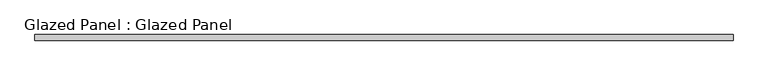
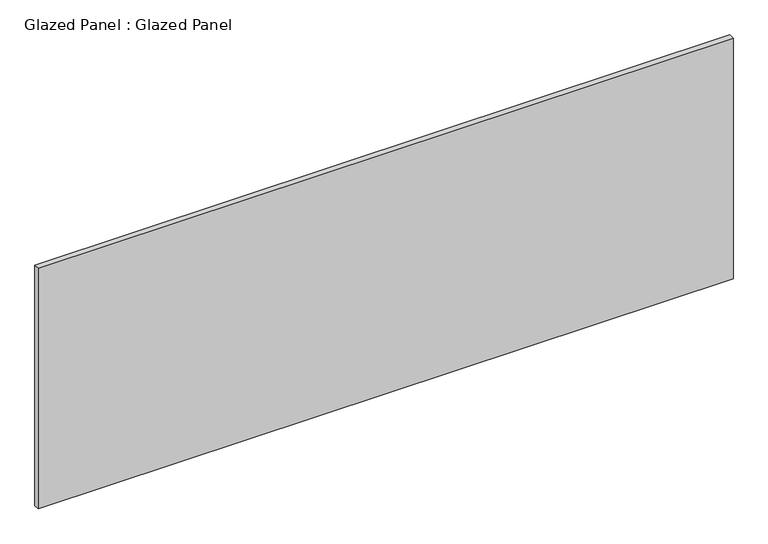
"""IFC4 building model written with IfcOpenShell, lengths in millimetres: plate geometry, Glazed Panel : Glazed Panel."""

from ifc_helpers import new_model, si_unit, origin, origin_with_axes, place, context, project, spatial, polyline, outline, extrude, source, transform, mapped, element, save


def glazed_panel_glazed_panel_a2050918(model_context):
    return source(origin(), model_context, "Body", "SweptSolid", [
        extrude(outline(polyline([(1577.998125, -38.1), (1577.998125, -63.5), (-1577.998125, -63.5), (-1577.998125, -38.1), (1577.998125, -38.1)])), origin_with_axes(), (0.0, 0.0, 1.0), 1155.7),
    ])


if __name__ == "__main__":
    model = new_model("IFC4")
    model_context = context("Model", 3, world=origin())
    ifc_project = project(units=[si_unit("LENGTHUNIT", "METRE", prefix="MILLI")], contexts=[model_context])
    site = spatial("IfcSite", under=ifc_project)
    building = spatial("IfcBuilding", under=site)
    placement = place(None, origin())
    glazed_panel_glazed_panel_shape = glazed_panel_glazed_panel_a2050918(model_context)
    element("IfcPlate", 1, ObjectType="Glazed Panel : Glazed Panel", at=placement, inside=building, context=model_context, shape_type="MappedRepresentation", body=[
        mapped(glazed_panel_glazed_panel_shape, transform((0.0, 0.0, 0.0), x_axis=(1.0, 0.0, 0.0), y_axis=(0.0, 1.0, 0.0), z_axis=(0.0, 0.0, 1.0))),
    ])
    save(model, "model.ifc")
